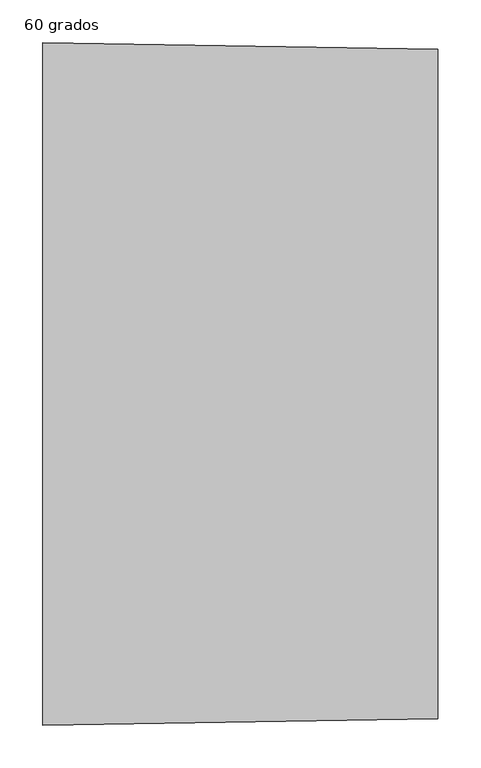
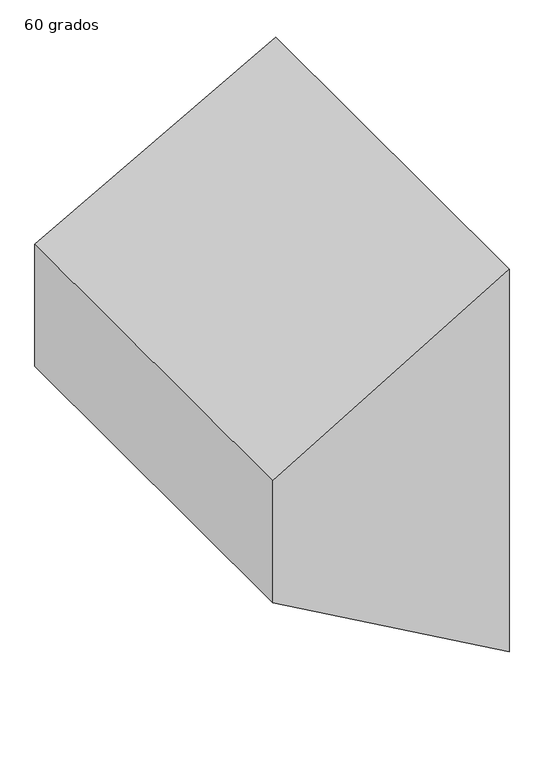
"""IFC4 building model written with IfcOpenShell, lengths in millimetres: duct fitting geometry, M_Transición rectangular - Ángulo : 60 grados."""

from ifc_helpers import new_model, si_unit, origin, place, context, project, spatial, faceted_brep, source, transform, mapped, element, save


def duct_fitting_60_grados_697436a6(model_context):
    return source(origin(), model_context, "Body", "Brep", [
        faceted_brep([(463.323591, -392.5, 392.5), (463.323591, -392.5, -392.5), (463.323591, 392.5, -392.5), (463.323591, 392.5, 392.5), (0.0, -400.0, 125.0), (0.0, 400.0, 125.0), (0.0, 400.0, -125.0), (0.0, -400.0, -125.0)], [[[0, 1, 2, 3]], [[4, 5, 6, 7]], [[4, 7, 1, 0]], [[7, 6, 2, 1]], [[6, 5, 3, 2]], [[5, 4, 0, 3]]]),
    ])


if __name__ == "__main__":
    model = new_model("IFC4")
    model_context = context("Model", 3, world=origin())
    ifc_project = project(units=[si_unit("LENGTHUNIT", "METRE", prefix="MILLI")], contexts=[model_context])
    site = spatial("IfcSite", under=ifc_project)
    building = spatial("IfcBuilding", under=site)
    placement = place(None, origin())
    duct_fitting_60_grados_shape = duct_fitting_60_grados_697436a6(model_context)
    element("IfcDuctFitting", 1, ObjectType="M_Transición rectangular - Ángulo : 60 grados", at=placement, inside=building, context=model_context, shape_type="MappedRepresentation", body=[
        mapped(duct_fitting_60_grados_shape, transform((0.0, 0.0, 0.0), x_axis=(1.0, 0.0, 0.0), y_axis=(0.0, 1.0, 0.0), z_axis=(0.0, 0.0, 1.0))),
    ])
    save(model, "model.ifc")
